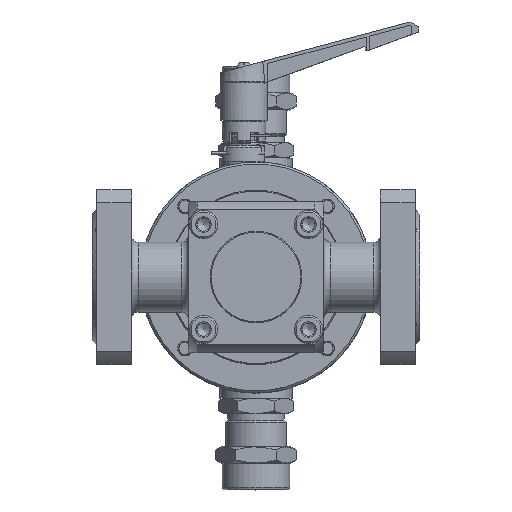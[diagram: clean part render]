
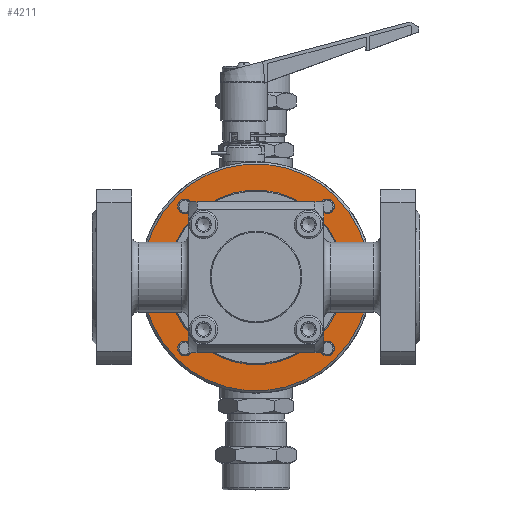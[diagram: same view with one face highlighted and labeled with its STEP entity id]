
A CAD part, top view. The second image highlights one B-rep face of the part: STEP entity #4211.
In plain terms, the highlighted planar face has unit normal (0, 0, 1).
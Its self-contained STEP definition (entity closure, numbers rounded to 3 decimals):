
#4211=ADVANCED_FACE('',(#26830,#26832,#26834,#26836,#26838,#26840),#26842,.T.);
#26830=FACE_BOUND('',#26831,.T.);
#26831=EDGE_LOOP('',(#51789));
#26832=FACE_BOUND('',#26833,.T.);
#26833=EDGE_LOOP('',(#51790));
#26834=FACE_BOUND('',#26835,.T.);
#26835=EDGE_LOOP('',(#51791));
#26836=FACE_BOUND('',#26837,.T.);
#26837=EDGE_LOOP('',(#51792));
#26838=FACE_BOUND('',#26839,.T.);
#26839=EDGE_LOOP('',(#51793));
#26840=FACE_BOUND('',#26841,.T.);
#26841=EDGE_LOOP('',(#51794));
#26842=PLANE('',#26843);
#26843=AXIS2_PLACEMENT_3D('',#26844,#26845,#26846);
#26844=CARTESIAN_POINT('',(0.,0.,-63.));
#26845=DIRECTION('',(0.,0.,1.));
#26846=DIRECTION('',(0.707,-0.707,0.));
#51789=ORIENTED_EDGE('',*,*,#64886,.F.);
#51790=ORIENTED_EDGE('',*,*,#65894,.T.);
#51791=ORIENTED_EDGE('',*,*,#65895,.T.);
#51792=ORIENTED_EDGE('',*,*,#65896,.T.);
#51793=ORIENTED_EDGE('',*,*,#65897,.T.);
#51794=ORIENTED_EDGE('',*,*,#65898,.T.);
#64886=EDGE_CURVE('',#73621,#73621,#73622,.T.);
#65894=EDGE_CURVE('',#75597,#75597,#75598,.F.);
#65895=EDGE_CURVE('',#75599,#75599,#75600,.F.);
#65896=EDGE_CURVE('',#75601,#75601,#75602,.T.);
#65897=EDGE_CURVE('',#75603,#75603,#75604,.F.);
#65898=EDGE_CURVE('',#75605,#75605,#75606,.F.);
#73621=VERTEX_POINT('',#90931);
#73622=CIRCLE('',#90932,52.);
#75597=VERTEX_POINT('',#96153);
#75598=CIRCLE('',#96154,3.323);
#75599=VERTEX_POINT('',#96158);
#75600=CIRCLE('',#96159,3.323);
#75601=VERTEX_POINT('',#96163);
#75602=CIRCLE('',#96164,40.);
#75603=VERTEX_POINT('',#96168);
#75604=CIRCLE('',#96169,3.323);
#75605=VERTEX_POINT('',#96173);
#75606=CIRCLE('',#96174,3.323);
#90931=CARTESIAN_POINT('',(36.77,-36.77,-63.));
#90932=AXIS2_PLACEMENT_3D('',#90933,#90934,#90935);
#90933=CARTESIAN_POINT('',(0.,0.,-63.));
#90934=DIRECTION('',(0.,0.,-1.));
#90935=DIRECTION('',(0.707,-0.707,0.));
#96153=CARTESIAN_POINT('',(-34.877,-34.877,-63.));
#96154=AXIS2_PLACEMENT_3D('',#96155,#96156,#96157);
#96155=CARTESIAN_POINT('',(-32.527,-32.527,-63.));
#96156=DIRECTION('',(0.,0.,1.));
#96157=DIRECTION('',(-0.707,-0.707,0.));
#96158=CARTESIAN_POINT('',(30.177,30.177,-63.));
#96159=AXIS2_PLACEMENT_3D('',#96160,#96161,#96162);
#96160=CARTESIAN_POINT('',(32.527,32.527,-63.));
#96161=DIRECTION('',(0.,0.,1.));
#96162=DIRECTION('',(-0.707,-0.707,0.));
#96163=CARTESIAN_POINT('',(28.284,-28.284,-63.));
#96164=AXIS2_PLACEMENT_3D('',#96165,#96166,#96167);
#96165=CARTESIAN_POINT('',(0.,0.,-63.));
#96166=DIRECTION('',(0.,0.,-1.));
#96167=DIRECTION('',(0.707,-0.707,0.));
#96168=CARTESIAN_POINT('',(30.177,-34.877,-63.));
#96169=AXIS2_PLACEMENT_3D('',#96170,#96171,#96172);
#96170=CARTESIAN_POINT('',(32.527,-32.527,-63.));
#96171=DIRECTION('',(0.,0.,1.));
#96172=DIRECTION('',(-0.707,-0.707,0.));
#96173=CARTESIAN_POINT('',(-34.877,30.177,-63.));
#96174=AXIS2_PLACEMENT_3D('',#96175,#96176,#96177);
#96175=CARTESIAN_POINT('',(-32.527,32.527,-63.));
#96176=DIRECTION('',(0.,0.,1.));
#96177=DIRECTION('',(-0.707,-0.707,0.));
